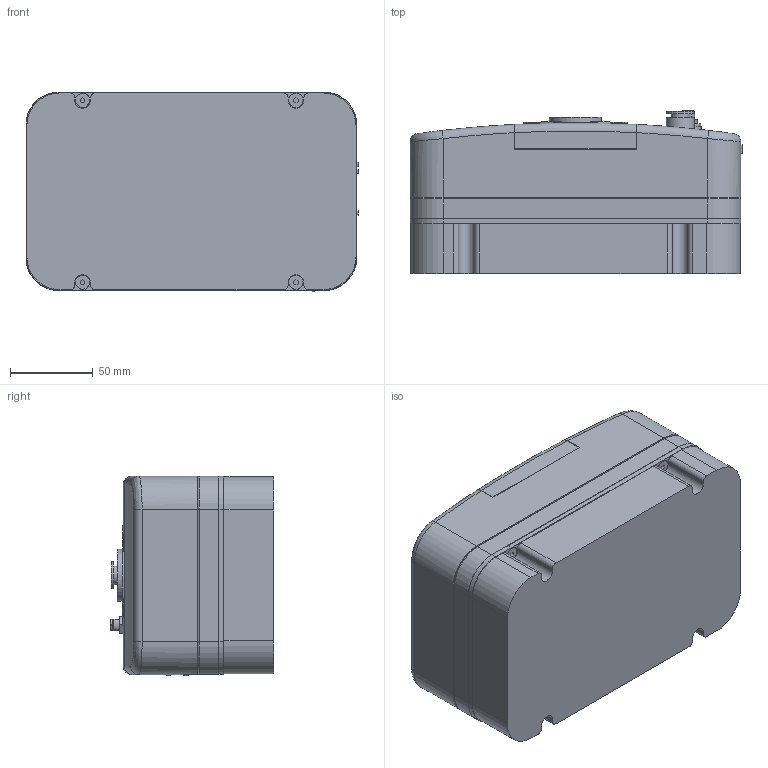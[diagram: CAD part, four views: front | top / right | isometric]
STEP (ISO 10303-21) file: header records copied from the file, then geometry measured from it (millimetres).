
FILE_DESCRIPTION(/* description */ ('STEP AP242','CAx-IF Rec.Pracs.---Representation and Presentation of Product Manufacturing Information (PMI)---4.0---2014-10-13','CAx-IF Rec.Pracs.---3D Tessellated Geometry---0.4---2014-09-14','2;1'),/* implementation_level */ '2;1');
FILE_NAME(/* name */ 'ZGS011PK-200120BS2-X1C10()',/* time_stamp */ '2026-03-09T13:42:04+01:00',/* author */ ('License CC BY-ND 4.0'),/* organization */ ('CADENAS'),/* preprocessor_version */ 'ST-DEVELOPER v20',/* originating_system */ 'PARTsolutions',/* authorisation */ ' ');
FILE_SCHEMA (('AP242_MANAGED_MODEL_BASED_3D_ENGINEERING_MIM_LF { 1 0 10303 442 1 1 4 }'));
Length unit declared in the file: millimetre
Products named in the file (6): ZGS011PK-200120BS2-X1C10(); ZGS011PK-200120B-C10_BODY; ZGS-200_300_TOOL_PLATE; ZGS-200_300_MAIN_PLATE; M6x16; ZGS-200_300_TOOL_COVER
Assembly tree (9 placements, depth 2):
  ZGS011PK-200120BS2-X1C10()
    ZGS011PK-200120B-C10_BODY
    ZGS-200_300_TOOL_PLATE
    ZGS-200_300_MAIN_PLATE
    M6x16  x4
    ZGS-200_300_TOOL_COVER  x2
Bounding box: 200.7 x 98.6 x 120.8 mm (x, y, z)
Volume: 2023545.5 mm3; surface area: 145203.7 mm2
Topology: 9 solids, 9 shells, 544 faces, 1322 edges, 862 vertices
Faces by surface type: plane 342, cylinder 154, cone 24, torus 18, bspline 4, sphere 2
Full cylindrical faces by diameter (mm): 0.6 x8, 4.917 x4, 5 x4, 5.94 x1, 6 x4, 6.6 x8, 6.9 x1, 8.5 x2, 8.56 x4, 8.6 x4, 9 x2, 10 x5, 11.1 x1, 12.5 x4, 14 x1, 15.5 x1, 16 x1, 16.5 x1, 17 x1, 31.5 x2
Entity records: 13586 total; most frequent: CARTESIAN_POINT 2598, DIRECTION 2274, ORIENTED_EDGE 2106, EDGE_CURVE 1053, AXIS2_PLACEMENT_3D 786, VERTEX_POINT 725, LINE 702, VECTOR 702
